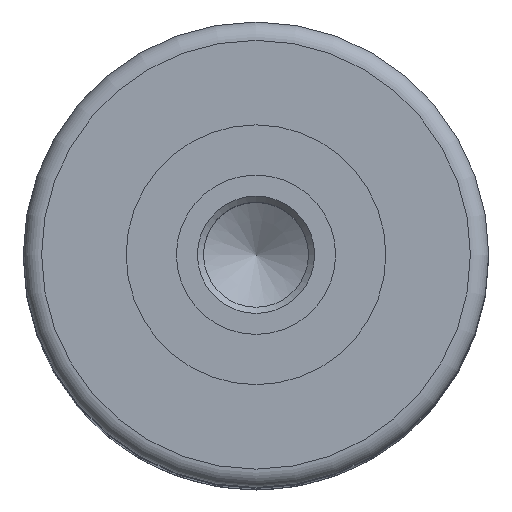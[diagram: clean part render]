
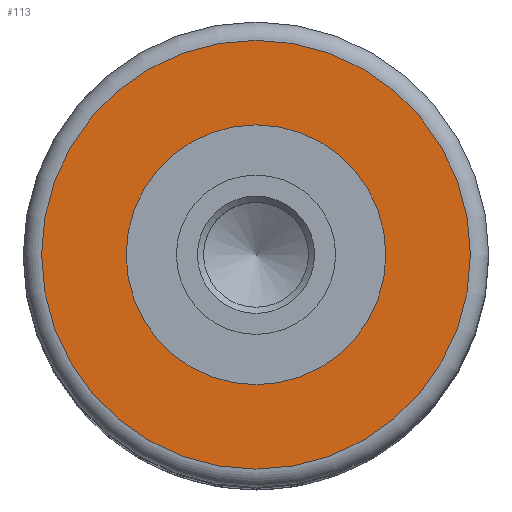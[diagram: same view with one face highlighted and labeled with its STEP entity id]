
A CAD part, top view. The second image highlights one B-rep face of the part: STEP entity #113.
In plain terms, the highlighted planar face has unit normal (0, 0, 1).
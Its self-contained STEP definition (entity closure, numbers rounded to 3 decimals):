
#113=ADVANCED_FACE('',(#200,#201),#202,.T.);
#200=FACE_BOUND('',#309,.T.);
#201=FACE_OUTER_BOUND('',#310,.T.);
#202=PLANE('',#311);
#309=EDGE_LOOP('',(#420));
#310=EDGE_LOOP('',(#421));
#311=AXIS2_PLACEMENT_3D('',#422,#423,#424);
#420=ORIENTED_EDGE('',*,*,#559,.F.);
#421=ORIENTED_EDGE('',*,*,#560,.T.);
#422=CARTESIAN_POINT('',(0.0,0.0,57.75));
#423=DIRECTION('',(0.0,0.0,1.0));
#424=DIRECTION('',(1.0,0.0,0.0));
#559=EDGE_CURVE('',#616,#616,#617,.T.);
#560=EDGE_CURVE('',#618,#618,#619,.T.);
#616=VERTEX_POINT('',#692);
#617=CIRCLE('',#693,10.6);
#618=VERTEX_POINT('',#694);
#619=CIRCLE('',#695,17.5);
#692=CARTESIAN_POINT('',(10.6,0.0,57.75));
#693=AXIS2_PLACEMENT_3D('',#975,#976,#977);
#694=CARTESIAN_POINT('',(17.5,0.0,57.75));
#695=AXIS2_PLACEMENT_3D('',#978,#979,#980);
#975=CARTESIAN_POINT('',(0.0,0.0,57.75));
#976=DIRECTION('',(0.0,0.0,1.0));
#977=DIRECTION('',(1.0,0.0,0.0));
#978=CARTESIAN_POINT('',(0.0,0.0,57.75));
#979=DIRECTION('',(0.0,0.0,1.0));
#980=DIRECTION('',(1.0,0.0,0.0));
